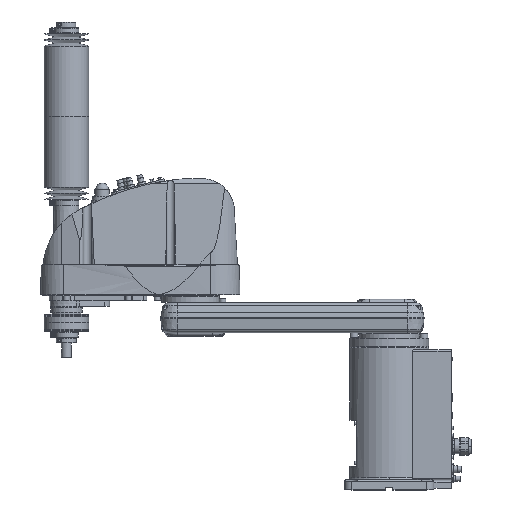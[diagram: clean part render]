
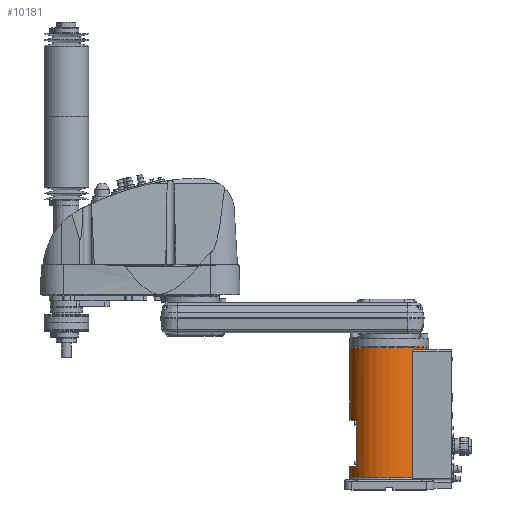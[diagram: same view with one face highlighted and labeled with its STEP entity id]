
A CAD part, top view. The second image highlights one B-rep face of the part: STEP entity #10181.
In plain terms, the highlighted cylindrical face has radius 80 mm (diameter 160 mm), a partial arc.
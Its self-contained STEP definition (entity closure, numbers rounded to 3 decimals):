
#8949 = EDGE_CURVE( '', #26339, #16383, #26630, .T. );
#9151 = EDGE_CURVE( '', #16383, #23997, #26850, .T. );
#10181 = ADVANCED_FACE( '', ( #28005 ), #28006, .T. );
#11365 = VERTEX_POINT( '', #29325 );
#14757 = VERTEX_POINT( '', #33132 );
#14941 = EDGE_CURVE( '', #19537, #11365, #33336, .T. );
#16383 = VERTEX_POINT( '', #34911 );
#18567 = VERTEX_POINT( '', #37330 );
#19013 = EDGE_CURVE( '', #14757, #25445, #37837, .T. );
#19449 = EDGE_CURVE( '', #25445, #19537, #38330, .T. );
#19537 = VERTEX_POINT( '', #38429 );
#19577 = VERTEX_POINT( '', #38471 );
#19655 = VERTEX_POINT( '', #38557 );
#20079 = EDGE_CURVE( '', #19577, #26339, #39031, .T. );
#20107 = EDGE_CURVE( '', #19655, #14757, #39063, .T. );
#22617 = VERTEX_POINT( '', #41885 );
#22715 = EDGE_CURVE( '', #19577, #23743, #41990, .T. );
#23743 = VERTEX_POINT( '', #43128 );
#23997 = VERTEX_POINT( '', #43401 );
#24571 = EDGE_CURVE( '', #11365, #22617, #44033, .T. );
#24995 = EDGE_CURVE( '', #18567, #19655, #44508, .T. );
#25445 = VERTEX_POINT( '', #45014 );
#26137 = EDGE_CURVE( '', #23997, #18567, #45794, .T. );
#26339 = VERTEX_POINT( '', #46028 );
#26365 = EDGE_CURVE( '', #22617, #23743, #46058, .T. );
#26630 = CIRCLE( '', #46374, 80. );
#26850 = LINE( '', #46771, #46772 );
#28005 = FACE_OUTER_BOUND( '', #48504, .T. );
#28006 = CYLINDRICAL_SURFACE( '', #48505, 80. );
#29325 = CARTESIAN_POINT( '', ( 50.557, 282., 62. ) );
#33132 = CARTESIAN_POINT( '', ( 0., 25., 80. ) );
#33336 = B_SPLINE_CURVE_WITH_KNOTS( '', 3, ( #56642, #56643, #56644, #56645, #56646, #56647, #56648, #56649, #56650, #56651, #56652, #56653, #56654, #56655, #56656, #56657 ), .UNSPECIFIED., .F., .F., ( 4, 2, 2, 2, 2, 2, 2, 4 ), ( 0., 0.565, 1.13, 1.695, 2.26, 4.16, 5.11, 6.06 ), .UNSPECIFIED. );
#34911 = CARTESIAN_POINT( '', ( -65., 140.5, 46.637 ) );
#37330 = CARTESIAN_POINT( '', ( -80., 47.5, 0. ) );
#37837 = CIRCLE( '', #63528, 80. );
#38330 = LINE( '', #64277, #64278 );
#38429 = CARTESIAN_POINT( '', ( 46.637, 279., 65. ) );
#38471 = CARTESIAN_POINT( '', ( -80., 286.5, 0. ) );
#38557 = CARTESIAN_POINT( '', ( -80., 25., 0. ) );
#39031 = LINE( '', #65262, #65263 );
#39063 = CIRCLE( '', #65309, 80. );
#41885 = CARTESIAN_POINT( '', ( 80., 282., 0. ) );
#41990 = CIRCLE( '', #69598, 80. );
#43128 = CARTESIAN_POINT( '', ( 80., 286.5, 0. ) );
#43401 = CARTESIAN_POINT( '', ( -65., 47.5, 46.637 ) );
#44033 = CIRCLE( '', #72751, 80. );
#44508 = LINE( '', #73454, #73455 );
#45014 = CARTESIAN_POINT( '', ( 46.637, 25., 65. ) );
#45794 = CIRCLE( '', #75398, 80. );
#46028 = CARTESIAN_POINT( '', ( -80., 140.5, 0. ) );
#46058 = LINE( '', #75779, #75780 );
#46374 = AXIS2_PLACEMENT_3D( '', #76114, #76115, #76116 );
#46771 = CARTESIAN_POINT( '', ( -65., 94., 46.637 ) );
#46772 = VECTOR( '', #76314, 1. );
#48504 = EDGE_LOOP( '', ( #77711, #77712, #77713, #77714, #77715, #77716, #77717, #77718, #77719, #77720, #77721, #77722 ) );
#48505 = AXIS2_PLACEMENT_3D( '', #77723, #77724, #77725 );
#56642 = CARTESIAN_POINT( '', ( 46.637, 279., 65. ) );
#56643 = CARTESIAN_POINT( '', ( 46.637, 279.188, 65. ) );
#56644 = CARTESIAN_POINT( '', ( 46.662, 279.376, 64.982 ) );
#56645 = CARTESIAN_POINT( '', ( 46.758, 279.739, 64.913 ) );
#56646 = CARTESIAN_POINT( '', ( 46.828, 279.915, 64.863 ) );
#56647 = CARTESIAN_POINT( '', ( 47.002, 280.242, 64.736 ) );
#56648 = CARTESIAN_POINT( '', ( 47.106, 280.395, 64.661 ) );
#56649 = CARTESIAN_POINT( '', ( 47.333, 280.673, 64.495 ) );
#56650 = CARTESIAN_POINT( '', ( 47.455, 280.799, 64.405 ) );
#56651 = CARTESIAN_POINT( '', ( 47.991, 281.279, 64.009 ) );
#56652 = CARTESIAN_POINT( '', ( 48.491, 281.555, 63.632 ) );
#56653 = CARTESIAN_POINT( '', ( 49.269, 281.826, 63.029 ) );
#56654 = CARTESIAN_POINT( '', ( 49.533, 281.893, 62.822 ) );
#56655 = CARTESIAN_POINT( '', ( 50.054, 281.98, 62.407 ) );
#56656 = CARTESIAN_POINT( '', ( 50.312, 282., 62.2 ) );
#56657 = CARTESIAN_POINT( '', ( 50.557, 282., 62. ) );
#63528 = AXIS2_PLACEMENT_3D( '', #89114, #89115, #89116 );
#64277 = CARTESIAN_POINT( '', ( 46.637, 152., 65. ) );
#64278 = VECTOR( '', #89738, 1. );
#65262 = CARTESIAN_POINT( '', ( -80., 155.75, 0. ) );
#65263 = VECTOR( '', #90536, 1. );
#65309 = AXIS2_PLACEMENT_3D( '', #90582, #90583, #90584 );
#69598 = AXIS2_PLACEMENT_3D( '', #94099, #94100, #94101 );
#72751 = AXIS2_PLACEMENT_3D( '', #96314, #96315, #96316 );
#73454 = CARTESIAN_POINT( '', ( -80., 155.75, 0. ) );
#73455 = VECTOR( '', #96906, 1. );
#75398 = AXIS2_PLACEMENT_3D( '', #98424, #98425, #98426 );
#75779 = CARTESIAN_POINT( '', ( 80., 155.75, 0. ) );
#75780 = VECTOR( '', #98765, 1. );
#76114 = CARTESIAN_POINT( '', ( 0., 140.5, 0. ) );
#76115 = DIRECTION( '', ( 0., 1., 0. ) );
#76116 = DIRECTION( '', ( 1., 0., 0. ) );
#76314 = DIRECTION( '', ( 0., -1., 0. ) );
#77711 = ORIENTED_EDGE( '', *, *, #26365, .T. );
#77712 = ORIENTED_EDGE( '', *, *, #22715, .F. );
#77713 = ORIENTED_EDGE( '', *, *, #20079, .T. );
#77714 = ORIENTED_EDGE( '', *, *, #8949, .T. );
#77715 = ORIENTED_EDGE( '', *, *, #9151, .T. );
#77716 = ORIENTED_EDGE( '', *, *, #26137, .T. );
#77717 = ORIENTED_EDGE( '', *, *, #24995, .T. );
#77718 = ORIENTED_EDGE( '', *, *, #20107, .T. );
#77719 = ORIENTED_EDGE( '', *, *, #19013, .T. );
#77720 = ORIENTED_EDGE( '', *, *, #19449, .T. );
#77721 = ORIENTED_EDGE( '', *, *, #14941, .T. );
#77722 = ORIENTED_EDGE( '', *, *, #24571, .T. );
#77723 = CARTESIAN_POINT( '', ( 0., 155.75, 0. ) );
#77724 = DIRECTION( '', ( 0., -1., 0. ) );
#77725 = DIRECTION( '', ( 1., 0., 0. ) );
#89114 = CARTESIAN_POINT( '', ( 0., 25., 0. ) );
#89115 = DIRECTION( '', ( 0., 1., 0. ) );
#89116 = DIRECTION( '', ( 1., 0., 0. ) );
#89738 = DIRECTION( '', ( 0., 1., 0. ) );
#90536 = DIRECTION( '', ( 0., -1., 0. ) );
#90582 = CARTESIAN_POINT( '', ( 0., 25., 0. ) );
#90583 = DIRECTION( '', ( 0., 1., 0. ) );
#90584 = DIRECTION( '', ( 1., 0., 0. ) );
#94099 = CARTESIAN_POINT( '', ( 0., 286.5, 0. ) );
#94100 = DIRECTION( '', ( 0., 1., 0. ) );
#94101 = DIRECTION( '', ( 1., 0., 0. ) );
#96314 = CARTESIAN_POINT( '', ( 0., 282., 0. ) );
#96315 = DIRECTION( '', ( 0., 1., 0. ) );
#96316 = DIRECTION( '', ( 1., 0., 0. ) );
#96906 = DIRECTION( '', ( 0., -1., 0. ) );
#98424 = CARTESIAN_POINT( '', ( 0., 47.5, 0. ) );
#98425 = DIRECTION( '', ( 0., -1., 0. ) );
#98426 = DIRECTION( '', ( 1., 0., 0. ) );
#98765 = DIRECTION( '', ( 0., 1., 0. ) );
